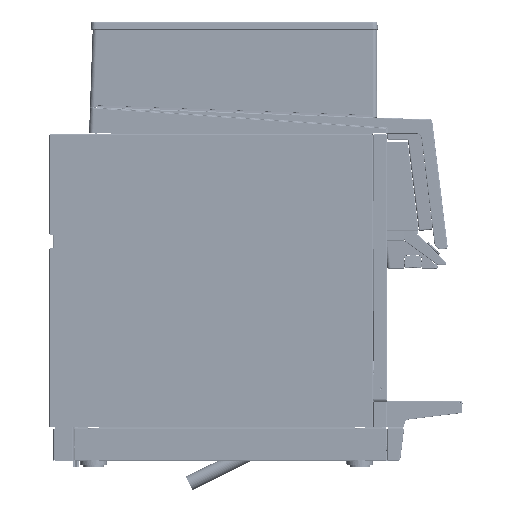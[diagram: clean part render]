
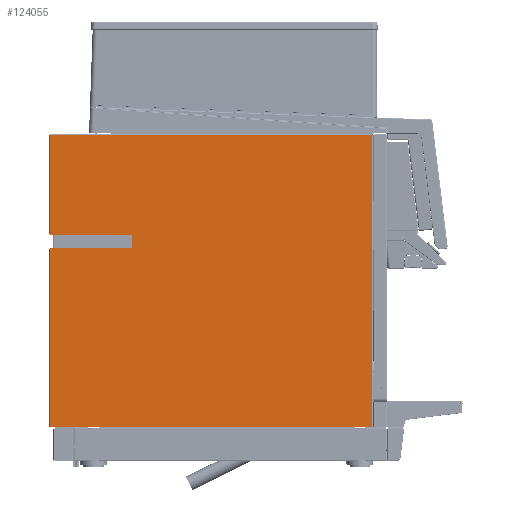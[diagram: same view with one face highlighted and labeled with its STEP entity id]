
A CAD part, left-side view. The second image highlights one B-rep face of the part: STEP entity #124055.
In plain terms, the highlighted planar face has unit normal (-1, 0, 0).
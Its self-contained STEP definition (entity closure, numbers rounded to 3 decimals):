
#5895=PLANE('',#135696);
#8898=CIRCLE('',#135697,0.5);
#8899=CIRCLE('',#135698,0.5);
#20954=ORIENTED_EDGE('',*,*,#46892,.F.);
#20955=ORIENTED_EDGE('',*,*,#46857,.F.);
#20956=ORIENTED_EDGE('',*,*,#46859,.F.);
#20957=ORIENTED_EDGE('',*,*,#46872,.F.);
#20958=ORIENTED_EDGE('',*,*,#46870,.F.);
#20959=ORIENTED_EDGE('',*,*,#46967,.T.);
#20960=ORIENTED_EDGE('',*,*,#46934,.T.);
#20961=ORIENTED_EDGE('',*,*,#46968,.F.);
#20962=ORIENTED_EDGE('',*,*,#46969,.T.);
#20963=ORIENTED_EDGE('',*,*,#46970,.F.);
#20964=ORIENTED_EDGE('',*,*,#46971,.T.);
#20965=ORIENTED_EDGE('',*,*,#46972,.T.);
#46857=EDGE_CURVE('',#102681,#102677,#66623,.T.);
#46859=EDGE_CURVE('',#102683,#102681,#66624,.T.);
#46870=EDGE_CURVE('',#102692,#102690,#66629,.T.);
#46872=EDGE_CURVE('',#102690,#102683,#66630,.T.);
#46892=EDGE_CURVE('',#102677,#102708,#66639,.T.);
#46934=EDGE_CURVE('',#102750,#102748,#66670,.T.);
#46967=EDGE_CURVE('',#102692,#102750,#66701,.T.);
#46968=EDGE_CURVE('',#102777,#102748,#8898,.T.);
#46969=EDGE_CURVE('',#102777,#102778,#66702,.T.);
#46970=EDGE_CURVE('',#102779,#102778,#8899,.T.);
#46971=EDGE_CURVE('',#102779,#102780,#66703,.T.);
#46972=EDGE_CURVE('',#102780,#102708,#66704,.T.);
#66623=LINE('',#204351,#79092);
#66624=LINE('',#204356,#79093);
#66629=LINE('',#204378,#79098);
#66630=LINE('',#204382,#79099);
#66639=LINE('',#204421,#79108);
#66670=LINE('',#204510,#79139);
#66701=LINE('',#204574,#79170);
#66702=LINE('',#204577,#79171);
#66703=LINE('',#204581,#79172);
#66704=LINE('',#204583,#79173);
#79092=VECTOR('',#152766,1000.);
#79093=VECTOR('',#152771,1000.);
#79098=VECTOR('',#152792,1000.);
#79099=VECTOR('',#152797,1000.);
#79108=VECTOR('',#152836,1000.);
#79139=VECTOR('',#152901,1000.);
#79170=VECTOR('',#152944,1000.);
#79171=VECTOR('',#152947,1000.);
#79172=VECTOR('',#152950,1000.);
#79173=VECTOR('',#152951,1000.);
#89777=EDGE_LOOP('',(#20954,#20955,#20956,#20957,#20958,#20959,#20960,#20961,
#20962,#20963,#20964,#20965));
#102677=VERTEX_POINT('',#204343);
#102681=VERTEX_POINT('',#204350);
#102683=VERTEX_POINT('',#204355);
#102690=VERTEX_POINT('',#204373);
#102692=VERTEX_POINT('',#204377);
#102708=VERTEX_POINT('',#204418);
#102748=VERTEX_POINT('',#204508);
#102750=VERTEX_POINT('',#204511);
#102777=VERTEX_POINT('',#204576);
#102778=VERTEX_POINT('',#204578);
#102779=VERTEX_POINT('',#204580);
#102780=VERTEX_POINT('',#204582);
#118708=FACE_BOUND('',#89777,.T.);
#124055=ADVANCED_FACE('',(#118708),#5895,.T.);
#135696=AXIS2_PLACEMENT_3D('',#204573,#152942,#152943);
#135697=AXIS2_PLACEMENT_3D('',#204575,#152945,#152946);
#135698=AXIS2_PLACEMENT_3D('',#204579,#152948,#152949);
#152766=DIRECTION('',(0.,1.,0.));
#152771=DIRECTION('',(0.,0.,-1.));
#152792=DIRECTION('',(0.,0.,1.));
#152797=DIRECTION('',(0.,-1.,0.));
#152836=DIRECTION('',(0.,0.,1.));
#152901=DIRECTION('',(0.,-1.,0.));
#152942=DIRECTION('',(-1.,0.,0.));
#152943=DIRECTION('',(0.,0.,1.));
#152944=DIRECTION('',(0.,0.,-1.));
#152945=DIRECTION('',(-1.,0.,0.));
#152946=DIRECTION('',(0.,-0.707,0.707));
#152947=DIRECTION('',(0.,0.,-1.));
#152948=DIRECTION('',(-1.,0.,0.));
#152949=DIRECTION('',(0.,-0.707,-0.707));
#152950=DIRECTION('',(0.,1.,0.));
#152951=DIRECTION('',(0.,0.,-1.));
#204343=CARTESIAN_POINT('',(-439.9,582.264,-12.986));
#204350=CARTESIAN_POINT('',(-439.9,114.664,-12.986));
#204351=CARTESIAN_POINT('',(-439.9,114.664,-12.986));
#204355=CARTESIAN_POINT('',(-439.9,114.664,410.614));
#204356=CARTESIAN_POINT('',(-439.9,114.664,410.614));
#204373=CARTESIAN_POINT('',(-439.9,582.264,410.614));
#204377=CARTESIAN_POINT('',(-439.9,582.264,267.014));
#204378=CARTESIAN_POINT('',(-439.9,582.264,267.014));
#204382=CARTESIAN_POINT('',(-439.9,582.264,410.614));
#204418=CARTESIAN_POINT('',(-439.9,582.264,244.614));
#204421=CARTESIAN_POINT('',(-439.9,582.264,-12.986));
#204508=CARTESIAN_POINT('',(-439.9,463.964,265.814));
#204510=CARTESIAN_POINT('',(-439.9,582.264,265.814));
#204511=CARTESIAN_POINT('',(-439.9,582.264,265.814));
#204573=CARTESIAN_POINT('',(-439.9,113.464,-14.186));
#204574=CARTESIAN_POINT('',(-439.9,582.264,267.014));
#204575=CARTESIAN_POINT('',(-439.9,463.964,265.314));
#204576=CARTESIAN_POINT('',(-439.9,463.464,265.314));
#204577=CARTESIAN_POINT('',(-439.9,463.464,265.314));
#204578=CARTESIAN_POINT('',(-439.9,463.464,246.314));
#204579=CARTESIAN_POINT('',(-439.9,463.964,246.314));
#204580=CARTESIAN_POINT('',(-439.9,463.964,245.814));
#204581=CARTESIAN_POINT('',(-439.9,463.964,245.814));
#204582=CARTESIAN_POINT('',(-439.9,582.264,245.814));
#204583=CARTESIAN_POINT('',(-439.9,582.264,245.814));
